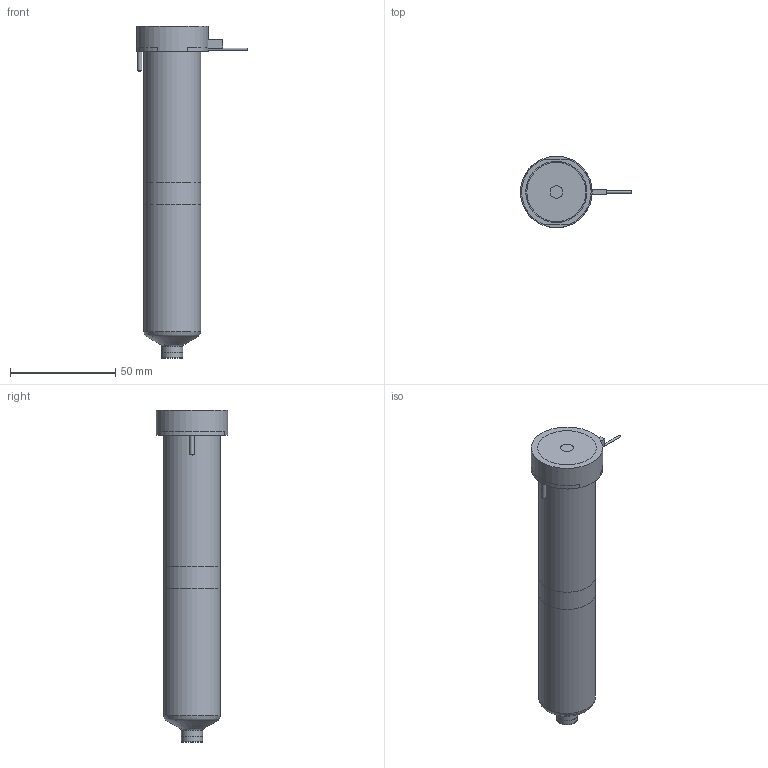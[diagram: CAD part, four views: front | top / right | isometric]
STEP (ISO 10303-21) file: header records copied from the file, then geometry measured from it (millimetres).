
FILE_DESCRIPTION(/* description */ (''),/* implementation_level */ '2;1');
FILE_NAME(/* name */ 'BXTBN-BXIBN-BXOBN13145_200C_b',/* time_stamp */ '2007-01-18T09:57:51+13:00',/* author */ (''),/* organization */ (''),/* preprocessor_version */ 'ST-DEVELOPER v9',/* originating_system */ 'UGS - NX 4.0',/* authorisation */ '');
FILE_SCHEMA (('CONFIG_CONTROL_DESIGN'));
Length unit declared in the file: millimetre
Products named in the file (1): BXTBN-BXIBN-BXOBN13145_200C_b
Bounding box: 52.65 x 34 x 157.58 mm (x, y, z)
Volume: 158716.9 mm3; surface area: 30698.5 mm2
Topology: 6 solids, 6 shells, 73 faces, 141 edges, 91 vertices
Faces by surface type: plane 34, cylinder 23, cone 8, torus 7, bspline 1
Full cylindrical faces by diameter (mm): 0.9 x1, 1 x3, 2 x2, 6 x1, 9.61 x1, 10.01 x2, 12.6 x1, 22.2 x1, 27 x2, 34 x1
Entity records: 1806 total; most frequent: CARTESIAN_POINT 357, DIRECTION 304, ORIENTED_EDGE 210, AXIS2_PLACEMENT_3D 134, EDGE_LOOP 112, EDGE_CURVE 105, VERTEX_POINT 84, ADVANCED_FACE 73
